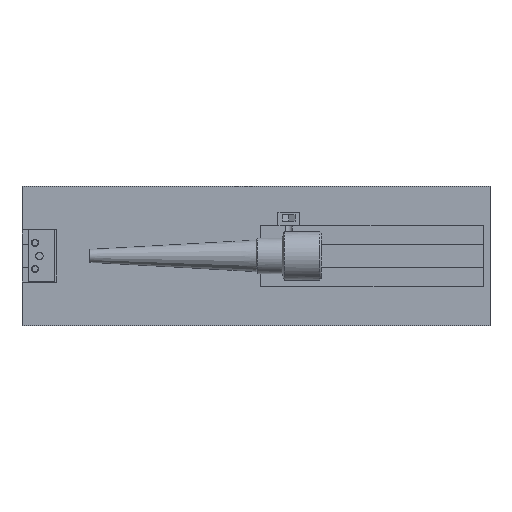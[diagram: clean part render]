
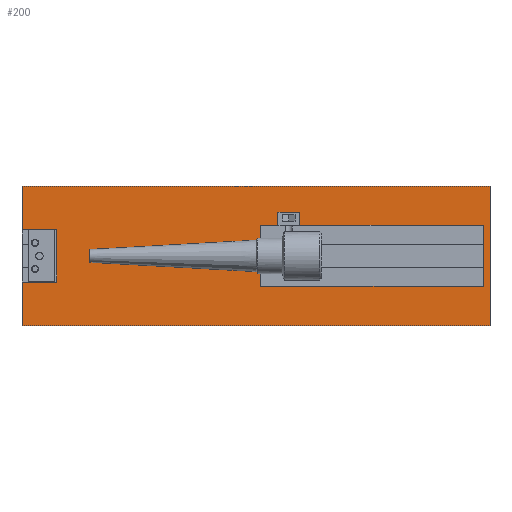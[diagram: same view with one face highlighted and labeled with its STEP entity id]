
A CAD part, top view. The second image highlights one B-rep face of the part: STEP entity #200.
In plain terms, the highlighted planar face has unit normal (0, 0, 1).
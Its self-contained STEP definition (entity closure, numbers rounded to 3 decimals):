
#24 = VERTEX_POINT('',#25);
#25 = CARTESIAN_POINT('',(-13.,-32.,5.));
#31 = EDGE_CURVE('',#24,#32,#34,.T.);
#32 = VERTEX_POINT('',#33);
#33 = CARTESIAN_POINT('',(201.959,-32.,5.));
#34 = LINE('',#35,#36);
#35 = CARTESIAN_POINT('',(-13.,-32.,5.));
#36 = VECTOR('',#37,1.);
#37 = DIRECTION('',(1.,0.,0.));
#64 = VERTEX_POINT('',#65);
#65 = CARTESIAN_POINT('',(-13.,32.,5.));
#78 = EDGE_CURVE('',#79,#24,#81,.T.);
#79 = VERTEX_POINT('',#80);
#80 = CARTESIAN_POINT('',(-13.,-12.,5.));
#81 = LINE('',#82,#83);
#82 = CARTESIAN_POINT('',(-13.,32.,5.));
#83 = VECTOR('',#84,1.);
#84 = DIRECTION('',(0.,-1.,0.));
#135 = VERTEX_POINT('',#136);
#136 = CARTESIAN_POINT('',(-13.,12.,5.));
#142 = EDGE_CURVE('',#64,#135,#143,.T.);
#143 = LINE('',#144,#145);
#144 = CARTESIAN_POINT('',(-13.,32.,5.));
#145 = VECTOR('',#146,1.);
#146 = DIRECTION('',(0.,-1.,0.));
#157 = EDGE_CURVE('',#32,#158,#160,.T.);
#158 = VERTEX_POINT('',#159);
#159 = CARTESIAN_POINT('',(201.959,32.,5.));
#160 = LINE('',#161,#162);
#161 = CARTESIAN_POINT('',(201.959,-32.,5.));
#162 = VECTOR('',#163,1.);
#163 = DIRECTION('',(0.,1.,0.));
#200 = ADVANCED_FACE('',(#201,#235),#301,.T.);
#201 = FACE_BOUND('',#202,.T.);
#202 = EDGE_LOOP('',(#203,#204,#205,#206,#212,#213,#221,#229));
#203 = ORIENTED_EDGE('',*,*,#78,.T.);
#204 = ORIENTED_EDGE('',*,*,#31,.T.);
#205 = ORIENTED_EDGE('',*,*,#157,.T.);
#206 = ORIENTED_EDGE('',*,*,#207,.T.);
#207 = EDGE_CURVE('',#158,#64,#208,.T.);
#208 = LINE('',#209,#210);
#209 = CARTESIAN_POINT('',(201.959,32.,5.));
#210 = VECTOR('',#211,1.);
#211 = DIRECTION('',(-1.,0.,0.));
#212 = ORIENTED_EDGE('',*,*,#142,.T.);
#213 = ORIENTED_EDGE('',*,*,#214,.F.);
#214 = EDGE_CURVE('',#215,#135,#217,.T.);
#215 = VERTEX_POINT('',#216);
#216 = CARTESIAN_POINT('',(3.,12.,5.));
#217 = LINE('',#218,#219);
#218 = CARTESIAN_POINT('',(3.,12.,5.));
#219 = VECTOR('',#220,1.);
#220 = DIRECTION('',(-1.,0.,0.));
#221 = ORIENTED_EDGE('',*,*,#222,.F.);
#222 = EDGE_CURVE('',#223,#215,#225,.T.);
#223 = VERTEX_POINT('',#224);
#224 = CARTESIAN_POINT('',(3.,-12.,5.));
#225 = LINE('',#226,#227);
#226 = CARTESIAN_POINT('',(3.,-12.,5.));
#227 = VECTOR('',#228,1.);
#228 = DIRECTION('',(0.,1.,0.));
#229 = ORIENTED_EDGE('',*,*,#230,.F.);
#230 = EDGE_CURVE('',#79,#223,#231,.T.);
#231 = LINE('',#232,#233);
#232 = CARTESIAN_POINT('',(-13.,-12.,5.));
#233 = VECTOR('',#234,1.);
#234 = DIRECTION('',(1.,0.,0.));
#235 = FACE_BOUND('',#236,.T.);
#236 = EDGE_LOOP('',(#237,#247,#255,#263,#271,#279,#287,#295));
#237 = ORIENTED_EDGE('',*,*,#238,.F.);
#238 = EDGE_CURVE('',#239,#241,#243,.T.);
#239 = VERTEX_POINT('',#240);
#240 = CARTESIAN_POINT('',(96.554,-14.,5.));
#241 = VERTEX_POINT('',#242);
#242 = CARTESIAN_POINT('',(198.959,-14.,5.));
#243 = LINE('',#244,#245);
#244 = CARTESIAN_POINT('',(96.554,-14.,5.));
#245 = VECTOR('',#246,1.);
#246 = DIRECTION('',(1.,0.,0.));
#247 = ORIENTED_EDGE('',*,*,#248,.F.);
#248 = EDGE_CURVE('',#249,#239,#251,.T.);
#249 = VERTEX_POINT('',#250);
#250 = CARTESIAN_POINT('',(96.554,14.,5.));
#251 = LINE('',#252,#253);
#252 = CARTESIAN_POINT('',(96.554,14.,5.));
#253 = VECTOR('',#254,1.);
#254 = DIRECTION('',(0.,-1.,0.));
#255 = ORIENTED_EDGE('',*,*,#256,.F.);
#256 = EDGE_CURVE('',#257,#249,#259,.T.);
#257 = VERTEX_POINT('',#258);
#258 = CARTESIAN_POINT('',(104.554,14.,5.));
#259 = LINE('',#260,#261);
#260 = CARTESIAN_POINT('',(198.959,14.,5.));
#261 = VECTOR('',#262,1.);
#262 = DIRECTION('',(-1.,0.,0.));
#263 = ORIENTED_EDGE('',*,*,#264,.F.);
#264 = EDGE_CURVE('',#265,#257,#267,.T.);
#265 = VERTEX_POINT('',#266);
#266 = CARTESIAN_POINT('',(104.554,20.,5.));
#267 = LINE('',#268,#269);
#268 = CARTESIAN_POINT('',(104.554,20.,5.));
#269 = VECTOR('',#270,1.);
#270 = DIRECTION('',(0.,-1.,0.));
#271 = ORIENTED_EDGE('',*,*,#272,.F.);
#272 = EDGE_CURVE('',#273,#265,#275,.T.);
#273 = VERTEX_POINT('',#274);
#274 = CARTESIAN_POINT('',(114.554,20.,5.));
#275 = LINE('',#276,#277);
#276 = CARTESIAN_POINT('',(114.554,20.,5.));
#277 = VECTOR('',#278,1.);
#278 = DIRECTION('',(-1.,0.,0.));
#279 = ORIENTED_EDGE('',*,*,#280,.F.);
#280 = EDGE_CURVE('',#281,#273,#283,.T.);
#281 = VERTEX_POINT('',#282);
#282 = CARTESIAN_POINT('',(114.554,14.,5.));
#283 = LINE('',#284,#285);
#284 = CARTESIAN_POINT('',(114.554,13.8,5.));
#285 = VECTOR('',#286,1.);
#286 = DIRECTION('',(0.,1.,0.));
#287 = ORIENTED_EDGE('',*,*,#288,.F.);
#288 = EDGE_CURVE('',#289,#281,#291,.T.);
#289 = VERTEX_POINT('',#290);
#290 = CARTESIAN_POINT('',(198.959,14.,5.));
#291 = LINE('',#292,#293);
#292 = CARTESIAN_POINT('',(198.959,14.,5.));
#293 = VECTOR('',#294,1.);
#294 = DIRECTION('',(-1.,0.,0.));
#295 = ORIENTED_EDGE('',*,*,#296,.F.);
#296 = EDGE_CURVE('',#241,#289,#297,.T.);
#297 = LINE('',#298,#299);
#298 = CARTESIAN_POINT('',(198.959,-14.,5.));
#299 = VECTOR('',#300,1.);
#300 = DIRECTION('',(0.,1.,0.));
#301 = PLANE('',#302);
#302 = AXIS2_PLACEMENT_3D('',#303,#304,#305);
#303 = CARTESIAN_POINT('',(94.479,0.,5.));
#304 = DIRECTION('',(0.,0.,1.));
#305 = DIRECTION('',(1.,0.,0.));
